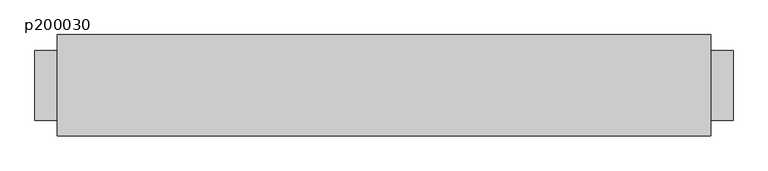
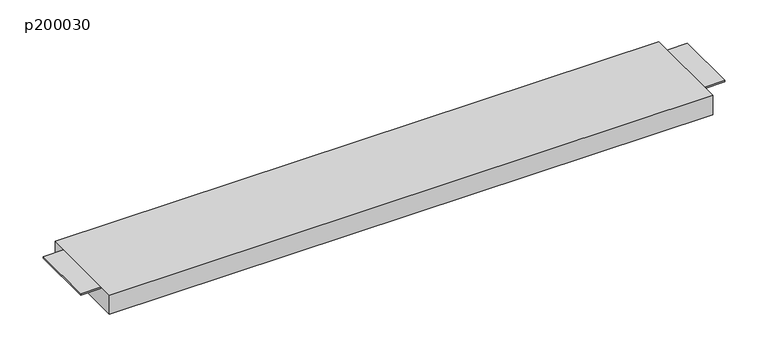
"""IFC4 building model written with IfcOpenShell, lengths in millimetres: proxy geometry, MILLS_ACRAM_PLANCHER_ACIER : p200030."""

from ifc_helpers import new_model, si_unit, frame, origin, place, context, project, spatial, polyline, outline, extrude, source, transform, mapped, element, save


def p200030_875206cd(model_context):
    return source(origin(), model_context, "Body", "SweptSolid", [
        extrude(outline(polyline([(22.6310524, 1065.022398), (-1911.3689476, 1065.022398), (-1911.3689476, 1365.022398), (22.6310524, 1365.022398), (22.6310524, 1065.022398)])), frame((0.0, 0.0, -40.0), z_axis=(0.0, 0.0, 1.0), x_axis=(1.0, 0.0, 0.0)), (0.0, 0.0, 1.0), 65.0),
        extrude(outline(polyline([(-1911.3689476, 1111.522398), (-1977.3689476, 1111.522398), (-1977.3689476, 1318.522398), (-1911.3689476, 1318.522398), (-1911.3689476, 1111.522398)])), frame((0.0, 0.0, 20.0), z_axis=(0.0, 0.0, 1.0), x_axis=(1.0, 0.0, 0.0)), (0.0, 0.0, 1.0), 5.0),
        extrude(outline(polyline([(88.6310524, 1111.522398), (22.6310524, 1111.522398), (22.6310524, 1318.522398), (88.6310524, 1318.522398), (88.6310524, 1111.522398)])), frame((0.0, 0.0, 20.0), z_axis=(0.0, 0.0, 1.0), x_axis=(1.0, 0.0, 0.0)), (0.0, 0.0, 1.0), 5.0),
    ])


if __name__ == "__main__":
    model = new_model("IFC4")
    model_context = context("Model", 3, world=origin())
    ifc_project = project(units=[si_unit("LENGTHUNIT", "METRE", prefix="MILLI")], contexts=[model_context])
    site = spatial("IfcSite", under=ifc_project)
    building = spatial("IfcBuilding", under=site)
    placement = place(None, origin())
    p200030_shape = p200030_875206cd(model_context)
    element("IfcBuildingElementProxy", 1, Name="MILLS_ACRAM_PLANCHER_ACIER : p200030", ObjectType="MILLS_ACRAM_PLANCHER_ACIER : p200030", at=placement, inside=building, context=model_context, shape_type="MappedRepresentation", body=[
        mapped(p200030_shape, transform((0.0, 0.0, 0.0), x_axis=(1.0, 0.0, 0.0), y_axis=(0.0, 1.0, 0.0), z_axis=(0.0, 0.0, 1.0))),
    ])
    save(model, "model.ifc")
